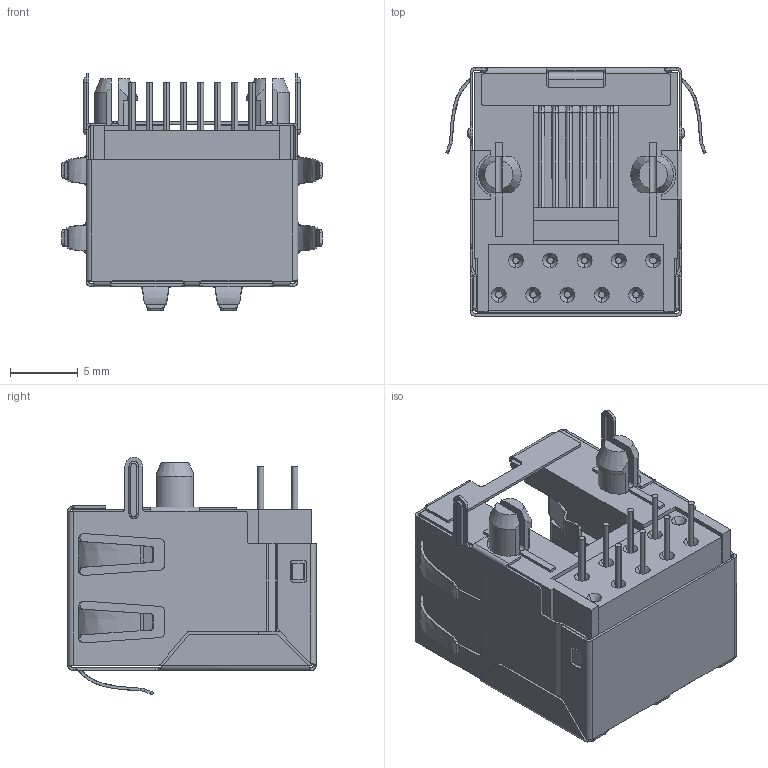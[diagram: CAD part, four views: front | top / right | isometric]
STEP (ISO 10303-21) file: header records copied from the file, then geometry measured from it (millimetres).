
FILE_DESCRIPTION((''),'2;1');
FILE_NAME('5622-1X1_ASM','2019-07-22T15:58:39',('RD002'),(''),'CREO PARAMETRIC BY PTC INC, 2018260','CREO PARAMETRIC BY PTC INC, 2018260','');
FILE_SCHEMA(('CONFIG_CONTROL_DESIGN','GEOMETRIC_VALIDATION_PROPERTIES_MIM'));
Length unit declared in the file: millimetre
Products named in the file (4): 5622-1X1-00; 5622CX; 5622-1X1-000; 5622-1X1_ASM
Assembly tree (3 placements, depth 2):
  5622-1X1_ASM
    5622-1X1-00
    5622CX
    5622-1X1-000
Bounding box: 19.28 x 18.4 x 17.59 mm (x, y, z)
Volume: 1961.3 mm3; surface area: 5738.3 mm2
Topology: 5 solids, 5 shells, 979 faces, 2513 edges, 1542 vertices
Faces by surface type: plane 526, cylinder 295, bspline 82, torus 40, cone 24, extrusion 12
Entity records: 35605 total; most frequent: CARTESIAN_POINT 10555, ORIENTED_EDGE 5026, DIRECTION 4597, EDGE_CURVE 2513, VECTOR 1701, LINE 1689, VERTEX_POINT 1542, AXIS2_PLACEMENT_3D 1448
